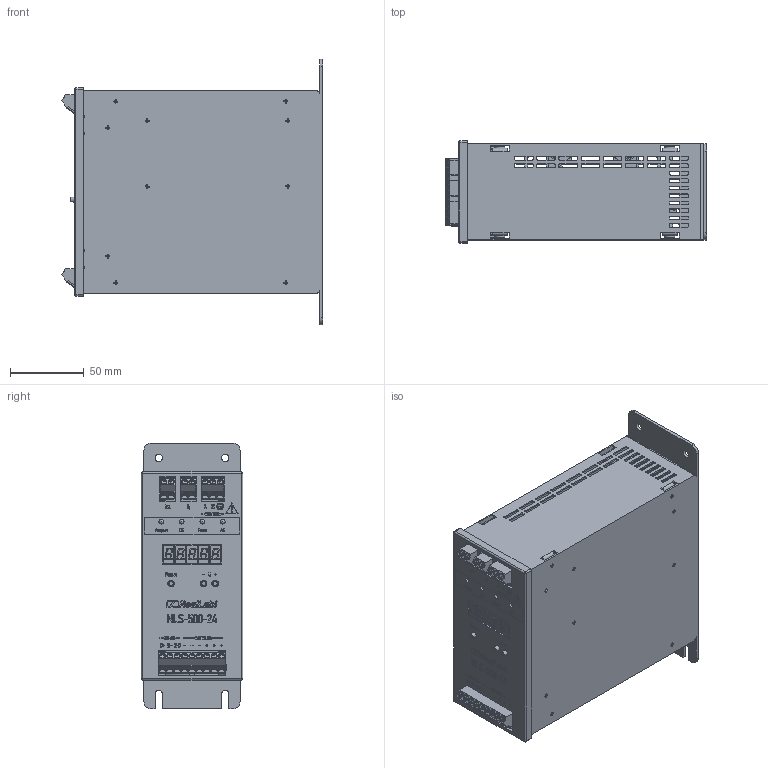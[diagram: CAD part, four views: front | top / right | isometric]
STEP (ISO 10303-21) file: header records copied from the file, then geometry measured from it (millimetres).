
FILE_DESCRIPTION(('STEP AP214'), '1');
FILE_NAME('Áëîê ïèòàíèÿ NLS-150', '', ('UNSPECIFIED'), ('UNSPECIFIED'), 'C3D Converter', 'C3D Toolkit', '');
FILE_SCHEMA(('AUTOMOTIVE_DESIGN { 1 0 10303 214 3 1 1}'));
Length unit declared in the file: millimetre
Bounding box: 176.85 x 69 x 180 mm (x, y, z)
Volume: 178084 mm3; surface area: 242126 mm2
Topology: 6 solids, 32 shells, 6192 faces, 16846 edges, 11118 vertices
Faces by surface type: plane 4319, extrusion 805, cylinder 785, cone 188, torus 63, bspline 24, sphere 8
Full cylindrical faces by diameter (mm): 0.8 x5, 1.3 x12, 2.459 x26, 2.5 x2, 3 x42, 3.2 x14, 3.3 x4, 3.5 x4, 4 x16, 4.1 x16, 4.4 x7, 4.95 x16, 5 x2, 5.6 x18, 6 x4, 7 x16, 56 x1
Entity records: 273036 total; most frequent: CARTESIAN_POINT 70249, ORIENTED_EDGE 32831, DIRECTION 27710, EDGE_CURVE 16419, VECTOR 13164, LINE 12359, VERTEX_POINT 11108, EDGE_LOOP 7510
